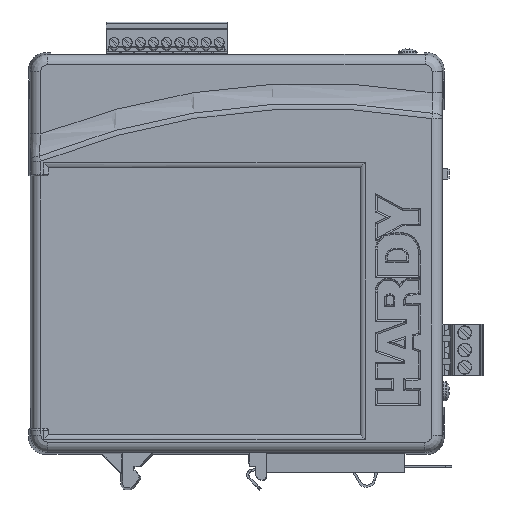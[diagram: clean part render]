
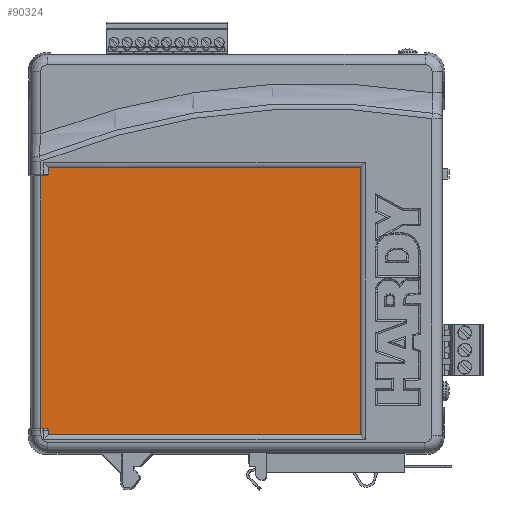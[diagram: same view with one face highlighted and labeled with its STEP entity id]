
A CAD part, left-side view. The second image highlights one B-rep face of the part: STEP entity #90324.
In plain terms, the highlighted planar face has unit normal (-1, 0, 0).
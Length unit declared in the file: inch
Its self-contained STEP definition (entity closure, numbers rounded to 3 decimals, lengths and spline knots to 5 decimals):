
#4996 = ORIENTED_EDGE ( 'NONE', *, *, #239159, .T. ) ;
#5529 = CARTESIAN_POINT ( 'NONE',  ( 0.01969, 4.48899, -1.3634 ) ) ;
#6934 = CARTESIAN_POINT ( 'NONE',  ( 0.01969, 4.57197, -4.25984 ) ) ;
#7362 = LINE ( 'NONE', #226331, #109078 ) ;
#8677 = ORIENTED_EDGE ( 'NONE', *, *, #127165, .T. ) ;
#20296 = CARTESIAN_POINT ( 'NONE',  ( 0.01969, 4.48819, -4.27953 ) ) ;
#23740 = DIRECTION ( 'NONE',  ( 0., 0., -1. ) ) ;
#25137 = VECTOR ( 'NONE', #45994, 39.37008 ) ;
#25970 = CARTESIAN_POINT ( 'NONE',  ( 0.01969, 4.49358, -1.3696 ) ) ;
#26432 = CARTESIAN_POINT ( 'NONE',  ( 0.01969, 4.48819, -4.25984 ) ) ;
#27427 = DIRECTION ( 'NONE',  ( 0., 0., 1. ) ) ;
#29253 = VECTOR ( 'NONE', #123799, 39.37008 ) ;
#29845 = CARTESIAN_POINT ( 'NONE',  ( 0.01969, 4.48819, -1.35827 ) ) ;
#39885 = CARTESIAN_POINT ( 'NONE',  ( 0.01969, 4.5302, -4.25981 ) ) ;
#41936 = LINE ( 'NONE', #42962, #29253 ) ;
#42962 = CARTESIAN_POINT ( 'NONE',  ( 0.01969, 4.57197, -1.37795 ) ) ;
#45994 = DIRECTION ( 'NONE',  ( 0., 1., 0. ) ) ;
#46395 = CARTESIAN_POINT ( 'NONE',  ( 0.01969, 4.50492, -1.37562 ) ) ;
#52643 = DIRECTION ( 'NONE',  ( 0., 0., 1. ) ) ;
#55328 = VERTEX_POINT ( 'NONE', #209472 ) ;
#59494 = LINE ( 'NONE', #174398, #65834 ) ;
#60243 = CARTESIAN_POINT ( 'NONE',  ( 0.01969, 4.51514, -4.26033 ) ) ;
#62016 = EDGE_CURVE ( 'NONE', #161853, #55328, #133342, .T. ) ;
#62901 = DIRECTION ( 'NONE',  ( 0., -1., 0. ) ) ;
#65834 = VECTOR ( 'NONE', #52643, 39.37008 ) ;
#66749 = CARTESIAN_POINT ( 'NONE',  ( 0.01969, 4.52, -1.37773 ) ) ;
#76979 = VECTOR ( 'NONE', #230959, 39.37008 ) ;
#77554 = FACE_OUTER_BOUND ( 'NONE', #148138, .T. ) ;
#77672 = CARTESIAN_POINT ( 'NONE',  ( 0.01969, 4.48819, -1.27953 ) ) ;
#78053 = VERTEX_POINT ( 'NONE', #97621 ) ;
#80363 = EDGE_CURVE ( 'NONE', #228528, #78053, #93172, .T. ) ;
#80650 = CARTESIAN_POINT ( 'NONE',  ( 0.01969, 4.50527, -4.26225 ) ) ;
#83353 = LINE ( 'NONE', #129678, #76979 ) ;
#86709 = B_SPLINE_CURVE_WITH_KNOTS ( 'NONE', 3,
 ( #249005, #127266, #5529, #147740, #25970, #168129, #46395, #188489, #66749, #208951, #87179, #229422 ),
 .UNSPECIFIED., .F., .F.,
 ( 4, 2, 2, 2, 2, 4 ),
 ( 0., 0.0002, 0.00039, 0.00078, 0.00117, 0.00156 ),
 .UNSPECIFIED. ) ;
#87179 = CARTESIAN_POINT ( 'NONE',  ( 0.01969, 4.5352, -1.37795 ) ) ;
#89700 = ORIENTED_EDGE ( 'NONE', *, *, #107188, .F. ) ;
#90207 = VERTEX_POINT ( 'NONE', #132102 ) ;
#90324 = ADVANCED_FACE ( 'NONE', ( #77554 ), #215494, .T. ) ;
#93172 = LINE ( 'NONE', #103820, #147322 ) ;
#94593 = DIRECTION ( 'NONE',  ( -1., 0., 0. ) ) ;
#97621 = CARTESIAN_POINT ( 'NONE',  ( 0.01969, 0.9252, -4.33071 ) ) ;
#98314 = VECTOR ( 'NONE', #219938, 39.37008 ) ;
#101142 = CARTESIAN_POINT ( 'NONE',  ( 0.01969, 4.49802, -4.2651 ) ) ;
#103220 = ORIENTED_EDGE ( 'NONE', *, *, #80363, .T. ) ;
#103820 = CARTESIAN_POINT ( 'NONE',  ( 0.01969, 4.48819, -4.33071 ) ) ;
#107188 = EDGE_CURVE ( 'NONE', #55328, #90207, #111511, .T. ) ;
#109078 = VECTOR ( 'NONE', #23740, 39.37008 ) ;
#111021 = CARTESIAN_POINT ( 'NONE',  ( 0.01969, 4.48819, -4.27953 ) ) ;
#111511 = LINE ( 'NONE', #6934, #260990 ) ;
#111975 = EDGE_CURVE ( 'NONE', #161853, #119710, #142629, .T. ) ;
#119710 = VERTEX_POINT ( 'NONE', #111021 ) ;
#121156 = ORIENTED_EDGE ( 'NONE', *, *, #62016, .F. ) ;
#121539 = CARTESIAN_POINT ( 'NONE',  ( 0.01969, 4.49181, -4.2699 ) ) ;
#123799 = DIRECTION ( 'NONE',  ( 0., 1., 0. ) ) ;
#125043 = CARTESIAN_POINT ( 'NONE',  ( 0.01969, 0.9252, -1.27953 ) ) ;
#127165 = EDGE_CURVE ( 'NONE', #209093, #193065, #7362, .T. ) ;
#127266 = CARTESIAN_POINT ( 'NONE',  ( 0.01969, 4.48819, -1.36087 ) ) ;
#129678 = CARTESIAN_POINT ( 'NONE',  ( 0.01969, 4.48819, -1.27953 ) ) ;
#132102 = CARTESIAN_POINT ( 'NONE',  ( 0.01969, 4.57197, -1.37795 ) ) ;
#133342 = LINE ( 'NONE', #26432, #25137 ) ;
#135988 = ORIENTED_EDGE ( 'NONE', *, *, #223896, .T. ) ;
#138260 = EDGE_CURVE ( 'NONE', #233084, #209093, #206443, .T. ) ;
#142091 = CARTESIAN_POINT ( 'NONE',  ( 0.01969, 4.48819, -4.27689 ) ) ;
#142629 = B_SPLINE_CURVE_WITH_KNOTS ( 'NONE', 3,
 ( #161636, #242467, #39885, #181975, #60243, #202453, #80650, #222936, #101142, #243362, #121539, #263812, #142091, #20296 ),
 .UNSPECIFIED., .F., .F.,
 ( 4, 2, 2, 2, 2, 2, 4 ),
 ( 0., 0.00038, 0.00076, 0.00095, 0.00115, 0.00134, 0.00153 ),
 .UNSPECIFIED. ) ;
#147322 = VECTOR ( 'NONE', #62901, 39.37008 ) ;
#147740 = CARTESIAN_POINT ( 'NONE',  ( 0.01969, 4.4917, -1.36777 ) ) ;
#148138 = EDGE_LOOP ( 'NONE', ( #252844, #8677, #4996, #199647, #89700, #121156, #222259, #135988, #103220, #196140 ) ) ;
#155193 = CARTESIAN_POINT ( 'NONE',  ( 0.01969, 4.54027, -1.37795 ) ) ;
#161636 = CARTESIAN_POINT ( 'NONE',  ( 0.01969, 4.54027, -4.25984 ) ) ;
#161853 = VERTEX_POINT ( 'NONE', #165954 ) ;
#165954 = CARTESIAN_POINT ( 'NONE',  ( 0.01969, 4.54027, -4.25984 ) ) ;
#168129 = CARTESIAN_POINT ( 'NONE',  ( 0.01969, 4.49989, -1.37404 ) ) ;
#168989 = VERTEX_POINT ( 'NONE', #155193 ) ;
#174398 = CARTESIAN_POINT ( 'NONE',  ( 0.01969, 0.9252, -4.33071 ) ) ;
#178144 = AXIS2_PLACEMENT_3D ( 'NONE', #256448, #94593, #236852 ) ;
#178271 = CARTESIAN_POINT ( 'NONE',  ( 0.01969, 4.48819, -1.27953 ) ) ;
#181975 = CARTESIAN_POINT ( 'NONE',  ( 0.01969, 4.52015, -4.26005 ) ) ;
#184697 = EDGE_CURVE ( 'NONE', #78053, #233084, #59494, .T. ) ;
#188489 = CARTESIAN_POINT ( 'NONE',  ( 0.01969, 4.51495, -1.37745 ) ) ;
#193065 = VERTEX_POINT ( 'NONE', #29845 ) ;
#196140 = ORIENTED_EDGE ( 'NONE', *, *, #184697, .T. ) ;
#199647 = ORIENTED_EDGE ( 'NONE', *, *, #221215, .T. ) ;
#202453 = CARTESIAN_POINT ( 'NONE',  ( 0.01969, 4.50773, -4.26165 ) ) ;
#205528 = CARTESIAN_POINT ( 'NONE',  ( 0.01969, 4.48819, -4.33071 ) ) ;
#206443 = LINE ( 'NONE', #77672, #98314 ) ;
#208951 = CARTESIAN_POINT ( 'NONE',  ( 0.01969, 4.53013, -1.37798 ) ) ;
#209093 = VERTEX_POINT ( 'NONE', #178271 ) ;
#209472 = CARTESIAN_POINT ( 'NONE',  ( 0.01969, 4.57197, -4.25984 ) ) ;
#215494 = PLANE ( 'NONE',  #178144 ) ;
#219938 = DIRECTION ( 'NONE',  ( 0., 1., 0. ) ) ;
#221215 = EDGE_CURVE ( 'NONE', #168989, #90207, #41936, .T. ) ;
#222259 = ORIENTED_EDGE ( 'NONE', *, *, #111975, .T. ) ;
#222936 = CARTESIAN_POINT ( 'NONE',  ( 0.01969, 4.50041, -4.26397 ) ) ;
#223896 = EDGE_CURVE ( 'NONE', #119710, #228528, #83353, .T. ) ;
#226331 = CARTESIAN_POINT ( 'NONE',  ( 0.01969, 4.48819, -1.27953 ) ) ;
#228528 = VERTEX_POINT ( 'NONE', #205528 ) ;
#229422 = CARTESIAN_POINT ( 'NONE',  ( 0.01969, 4.54027, -1.37795 ) ) ;
#230959 = DIRECTION ( 'NONE',  ( 0., 0., -1. ) ) ;
#233084 = VERTEX_POINT ( 'NONE', #125043 ) ;
#236852 = DIRECTION ( 'NONE',  ( 0., 0., 1. ) ) ;
#239159 = EDGE_CURVE ( 'NONE', #193065, #168989, #86709, .T. ) ;
#242467 = CARTESIAN_POINT ( 'NONE',  ( 0.01969, 4.53524, -4.25984 ) ) ;
#243362 = CARTESIAN_POINT ( 'NONE',  ( 0.01969, 4.49371, -4.26807 ) ) ;
#249005 = CARTESIAN_POINT ( 'NONE',  ( 0.01969, 4.48819, -1.35827 ) ) ;
#252844 = ORIENTED_EDGE ( 'NONE', *, *, #138260, .T. ) ;
#256448 = CARTESIAN_POINT ( 'NONE',  ( 0.01969, 0.9252, -1.27953 ) ) ;
#260990 = VECTOR ( 'NONE', #27427, 39.37008 ) ;
#263812 = CARTESIAN_POINT ( 'NONE',  ( 0.01969, 4.48901, -4.27433 ) ) ;
